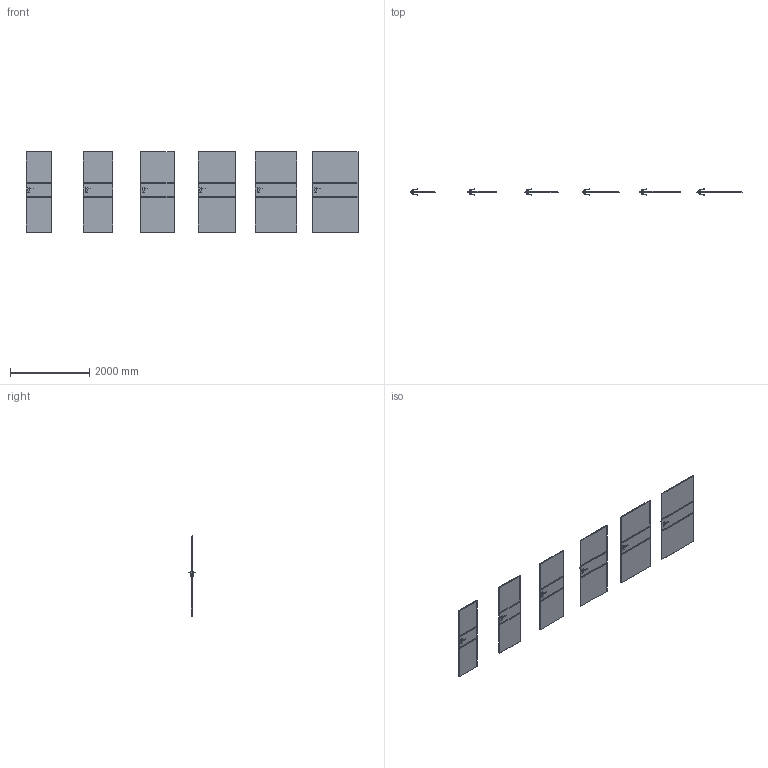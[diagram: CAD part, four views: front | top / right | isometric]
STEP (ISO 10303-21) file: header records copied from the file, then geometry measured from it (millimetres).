
FILE_DESCRIPTION(/* description */ (''),/* implementation_level */ '2;1');
FILE_NAME(/* name */ '049687_A_2-Skrzydło VECTOR C_ polska norma _PN__ przylgowe..stp',/* time_stamp */ '2024-02-08T15:00:05+01:00',/* author */ (''),/* organization */ (''),/* preprocessor_version */ 'ST-DEVELOPER v16',/* originating_system */ 'SIEMENS PLM Software NX 11.0',/* authorisation */ '');
FILE_SCHEMA (('AUTOMOTIVE_DESIGN { 1 0 10303 214 3 1 1 1 }'));
Length unit declared in the file: millimetre
Products named in the file (1): bkni5438F2A5jc30
Bounding box: 8394 x 153.27 x 2030 mm (x, y, z)
Volume: 418383373 mm3; surface area: 23486962.9 mm2
Topology: 30 solids, 30 shells, 1464 faces, 3684 edges, 2160 vertices
Faces by surface type: plane 648, cylinder 456, bspline 192, sphere 168
Entity records: 49156 total; most frequent: CARTESIAN_POINT 15565, ORIENTED_EDGE 7032, DIRECTION 6806, EDGE_CURVE 3516, AXIS2_PLACEMENT_3D 2377, VERTEX_POINT 2160, LINE 2052, VECTOR 2052
